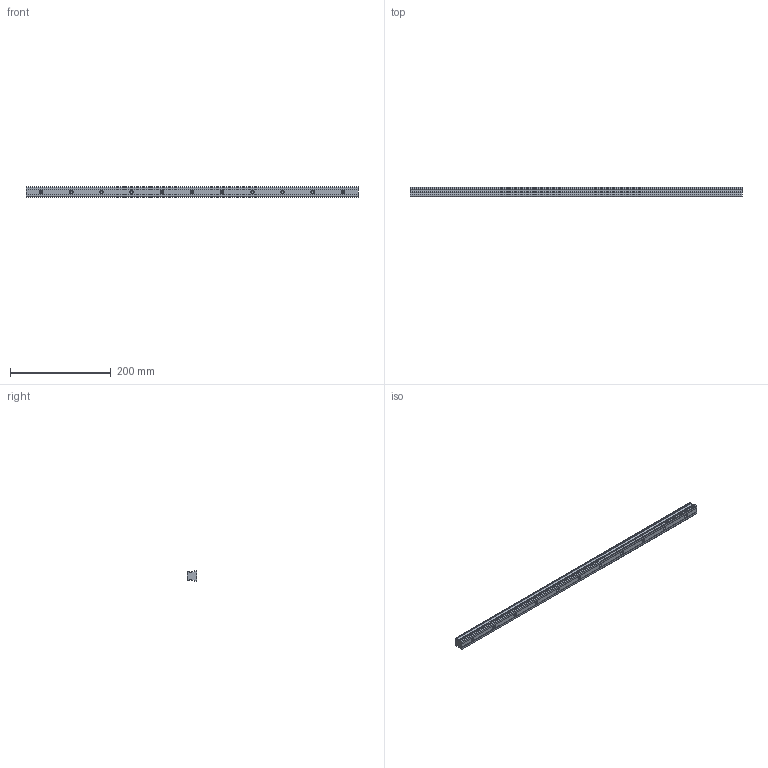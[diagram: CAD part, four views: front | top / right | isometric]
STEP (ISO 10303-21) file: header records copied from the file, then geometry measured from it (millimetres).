
FILE_DESCRIPTION (( 'STEP AP203' ), '1' );
FILE_NAME ('L1018.20R-0660.step', '2023-08-06T09:05:49', ( '' ), ( '' ), 'SwSTEP 2.0', 'SolidWorks 2019', '' );
FILE_SCHEMA (( 'CONFIG_CONTROL_DESIGN' ));
Length unit declared in the file: millimetre
Products named in the file (1): L1018.20R-0660
Bounding box: 660 x 19.3 x 20 mm (x, y, z)
Volume: 209304.7 mm3; surface area: 56344.5 mm2
Topology: 1 solids, 1 shells, 128 faces, 301 edges, 175 vertices
Faces by surface type: cylinder 47, cone 44, plane 37
Entity records: 3572 total; most frequent: DIRECTION 653, CARTESIAN_POINT 583, ORIENTED_EDGE 558, EDGE_CURVE 279, AXIS2_PLACEMENT_3D 245, VERTEX_POINT 175, LINE 163, VECTOR 163
